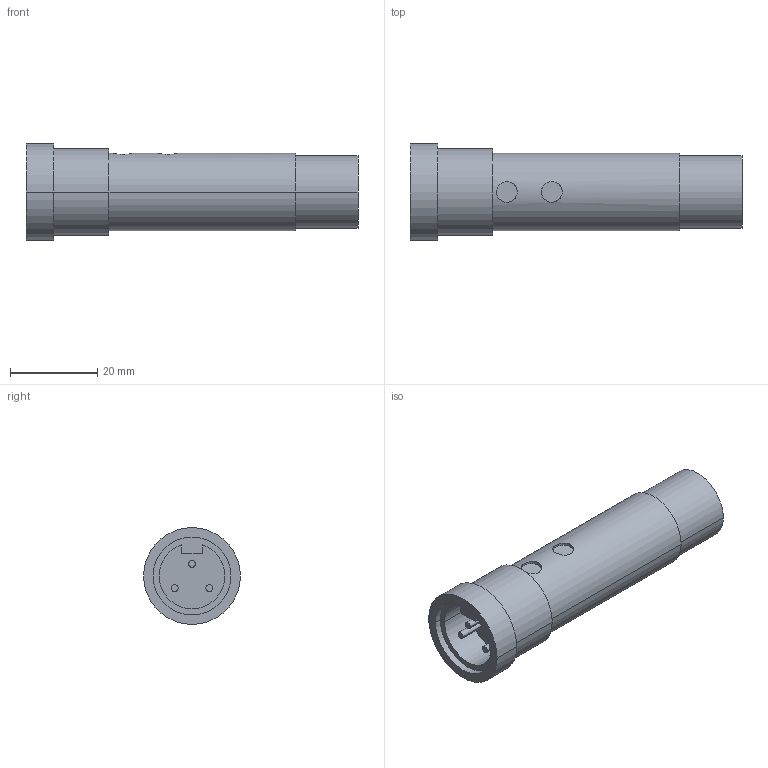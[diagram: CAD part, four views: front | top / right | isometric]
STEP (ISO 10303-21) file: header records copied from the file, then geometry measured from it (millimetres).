
FILE_DESCRIPTION (( 'STEP AP214' ), '1' );
FILE_NAME ('871TM-B8N18-N3.STEP', '2009-08-12T06:59:53', ( ' ' ), ( ' ' ), 'SwSTEP 2.0', 'SolidWorks 2007', '' );
FILE_SCHEMA (( 'AUTOMOTIVE_DESIGN' ));
Length unit declared in the file: millimetre
Products named in the file (1): 871TM-B8N18-N3
Bounding box: 76.2 x 22.23 x 22.23 mm (x, y, z)
Volume: 18531.5 mm3; surface area: 7262.5 mm2
Topology: 2 solids, 2 shells, 42 faces, 84 edges, 56 vertices
Faces by surface type: cylinder 25, plane 17
Entity records: 1716 total; most frequent: CARTESIAN_POINT 299, DIRECTION 212, ORIENTED_EDGE 168, AXIS2_PLACEMENT_3D 89, EDGE_CURVE 84, VERTEX_POINT 56, EDGE_LOOP 52, CIRCLE 46
